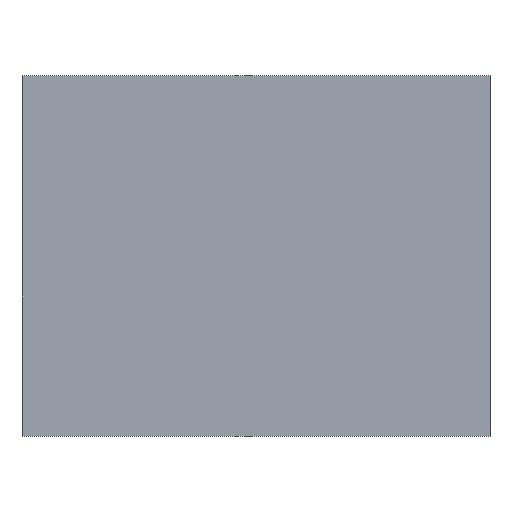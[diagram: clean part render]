
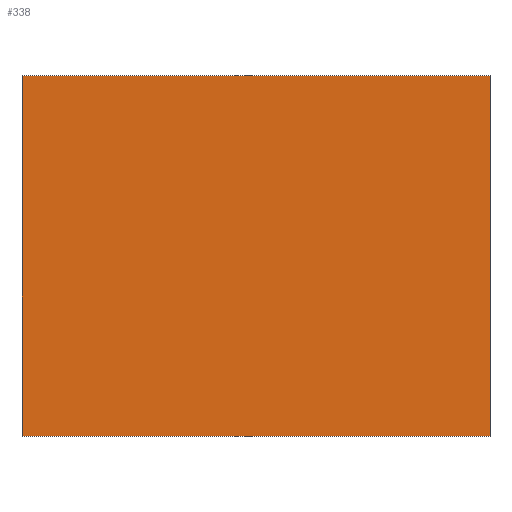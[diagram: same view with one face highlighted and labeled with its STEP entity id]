
A CAD part, top view. The second image highlights one B-rep face of the part: STEP entity #338.
In plain terms, the highlighted planar face has unit normal (0, 0, 1).
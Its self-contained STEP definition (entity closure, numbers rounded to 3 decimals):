
#24 = VERTEX_POINT('',#25);
#25 = CARTESIAN_POINT('',(1533.,-1903.,3114.));
#32 = PLANE('',#33);
#33 = AXIS2_PLACEMENT_3D('',#34,#35,#36);
#34 = CARTESIAN_POINT('',(1533.,-1903.,3094.));
#35 = DIRECTION('',(1.,0.,-0.));
#36 = DIRECTION('',(0.,0.,1.));
#44 = PLANE('',#45);
#45 = AXIS2_PLACEMENT_3D('',#46,#47,#48);
#46 = CARTESIAN_POINT('',(1533.,-1903.,3094.));
#47 = DIRECTION('',(-0.,1.,0.));
#48 = DIRECTION('',(0.,0.,1.));
#85 = VERTEX_POINT('',#86);
#86 = CARTESIAN_POINT('',(1533.,-1749.,3114.));
#100 = PLANE('',#101);
#101 = AXIS2_PLACEMENT_3D('',#102,#103,#104);
#102 = CARTESIAN_POINT('',(1533.,-1749.,3094.));
#103 = DIRECTION('',(-0.,1.,0.));
#104 = DIRECTION('',(0.,0.,1.));
#112 = EDGE_CURVE('',#24,#85,#113,.T.);
#113 = SURFACE_CURVE('',#114,(#118,#125),.PCURVE_S1.);
#114 = LINE('',#115,#116);
#115 = CARTESIAN_POINT('',(1533.,-1903.,3114.));
#116 = VECTOR('',#117,1.);
#117 = DIRECTION('',(-0.,1.,0.));
#118 = PCURVE('',#32,#119);
#119 = DEFINITIONAL_REPRESENTATION('',(#120),#124);
#120 = LINE('',#121,#122);
#121 = CARTESIAN_POINT('',(20.,0.));
#122 = VECTOR('',#123,1.);
#123 = DIRECTION('',(0.,-1.));
#124 = ( GEOMETRIC_REPRESENTATION_CONTEXT(2) 
PARAMETRIC_REPRESENTATION_CONTEXT() REPRESENTATION_CONTEXT('2D SPACE',''
  ) );
#125 = PCURVE('',#126,#131);
#126 = PLANE('',#127);
#127 = AXIS2_PLACEMENT_3D('',#128,#129,#130);
#128 = CARTESIAN_POINT('',(1533.,-1903.,3114.));
#129 = DIRECTION('',(0.,0.,1.));
#130 = DIRECTION('',(1.,0.,-0.));
#131 = DEFINITIONAL_REPRESENTATION('',(#132),#136);
#132 = LINE('',#133,#134);
#133 = CARTESIAN_POINT('',(0.,0.));
#134 = VECTOR('',#135,1.);
#135 = DIRECTION('',(0.,1.));
#136 = ( GEOMETRIC_REPRESENTATION_CONTEXT(2) 
PARAMETRIC_REPRESENTATION_CONTEXT() REPRESENTATION_CONTEXT('2D SPACE',''
  ) );
#144 = VERTEX_POINT('',#145);
#145 = CARTESIAN_POINT('',(1733.,-1903.,3114.));
#152 = PLANE('',#153);
#153 = AXIS2_PLACEMENT_3D('',#154,#155,#156);
#154 = CARTESIAN_POINT('',(1733.,-1903.,3094.));
#155 = DIRECTION('',(1.,0.,-0.));
#156 = DIRECTION('',(0.,0.,1.));
#195 = VERTEX_POINT('',#196);
#196 = CARTESIAN_POINT('',(1733.,-1749.,3114.));
#217 = EDGE_CURVE('',#144,#195,#218,.T.);
#218 = SURFACE_CURVE('',#219,(#223,#230),.PCURVE_S1.);
#219 = LINE('',#220,#221);
#220 = CARTESIAN_POINT('',(1733.,-1903.,3114.));
#221 = VECTOR('',#222,1.);
#222 = DIRECTION('',(-0.,1.,0.));
#223 = PCURVE('',#152,#224);
#224 = DEFINITIONAL_REPRESENTATION('',(#225),#229);
#225 = LINE('',#226,#227);
#226 = CARTESIAN_POINT('',(20.,0.));
#227 = VECTOR('',#228,1.);
#228 = DIRECTION('',(0.,-1.));
#229 = ( GEOMETRIC_REPRESENTATION_CONTEXT(2) 
PARAMETRIC_REPRESENTATION_CONTEXT() REPRESENTATION_CONTEXT('2D SPACE',''
  ) );
#230 = PCURVE('',#126,#231);
#231 = DEFINITIONAL_REPRESENTATION('',(#232),#236);
#232 = LINE('',#233,#234);
#233 = CARTESIAN_POINT('',(200.,0.));
#234 = VECTOR('',#235,1.);
#235 = DIRECTION('',(0.,1.));
#236 = ( GEOMETRIC_REPRESENTATION_CONTEXT(2) 
PARAMETRIC_REPRESENTATION_CONTEXT() REPRESENTATION_CONTEXT('2D SPACE',''
  ) );
#263 = EDGE_CURVE('',#24,#144,#264,.T.);
#264 = SURFACE_CURVE('',#265,(#269,#276),.PCURVE_S1.);
#265 = LINE('',#266,#267);
#266 = CARTESIAN_POINT('',(1533.,-1903.,3114.));
#267 = VECTOR('',#268,1.);
#268 = DIRECTION('',(1.,0.,-0.));
#269 = PCURVE('',#44,#270);
#270 = DEFINITIONAL_REPRESENTATION('',(#271),#275);
#271 = LINE('',#272,#273);
#272 = CARTESIAN_POINT('',(20.,0.));
#273 = VECTOR('',#274,1.);
#274 = DIRECTION('',(0.,1.));
#275 = ( GEOMETRIC_REPRESENTATION_CONTEXT(2) 
PARAMETRIC_REPRESENTATION_CONTEXT() REPRESENTATION_CONTEXT('2D SPACE',''
  ) );
#276 = PCURVE('',#126,#277);
#277 = DEFINITIONAL_REPRESENTATION('',(#278),#282);
#278 = LINE('',#279,#280);
#279 = CARTESIAN_POINT('',(0.,0.));
#280 = VECTOR('',#281,1.);
#281 = DIRECTION('',(1.,0.));
#282 = ( GEOMETRIC_REPRESENTATION_CONTEXT(2) 
PARAMETRIC_REPRESENTATION_CONTEXT() REPRESENTATION_CONTEXT('2D SPACE',''
  ) );
#310 = EDGE_CURVE('',#85,#195,#311,.T.);
#311 = SURFACE_CURVE('',#312,(#316,#323),.PCURVE_S1.);
#312 = LINE('',#313,#314);
#313 = CARTESIAN_POINT('',(1533.,-1749.,3114.));
#314 = VECTOR('',#315,1.);
#315 = DIRECTION('',(1.,0.,-0.));
#316 = PCURVE('',#100,#317);
#317 = DEFINITIONAL_REPRESENTATION('',(#318),#322);
#318 = LINE('',#319,#320);
#319 = CARTESIAN_POINT('',(20.,0.));
#320 = VECTOR('',#321,1.);
#321 = DIRECTION('',(0.,1.));
#322 = ( GEOMETRIC_REPRESENTATION_CONTEXT(2) 
PARAMETRIC_REPRESENTATION_CONTEXT() REPRESENTATION_CONTEXT('2D SPACE',''
  ) );
#323 = PCURVE('',#126,#324);
#324 = DEFINITIONAL_REPRESENTATION('',(#325),#329);
#325 = LINE('',#326,#327);
#326 = CARTESIAN_POINT('',(0.,154.));
#327 = VECTOR('',#328,1.);
#328 = DIRECTION('',(1.,0.));
#329 = ( GEOMETRIC_REPRESENTATION_CONTEXT(2) 
PARAMETRIC_REPRESENTATION_CONTEXT() REPRESENTATION_CONTEXT('2D SPACE',''
  ) );
#338 = ADVANCED_FACE('',(#339),#126,.T.);
#339 = FACE_BOUND('',#340,.T.);
#340 = EDGE_LOOP('',(#341,#342,#343,#344));
#341 = ORIENTED_EDGE('',*,*,#112,.F.);
#342 = ORIENTED_EDGE('',*,*,#263,.T.);
#343 = ORIENTED_EDGE('',*,*,#217,.T.);
#344 = ORIENTED_EDGE('',*,*,#310,.F.);
